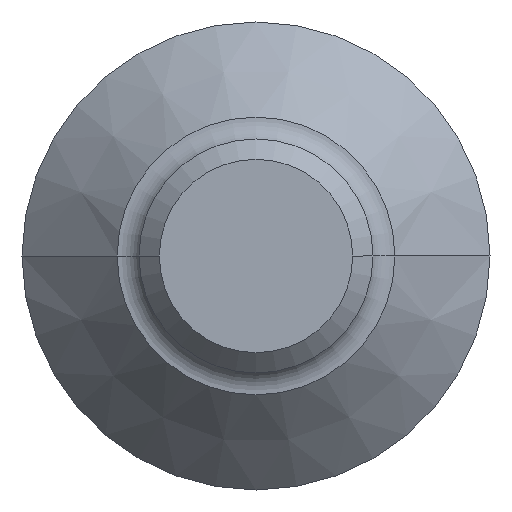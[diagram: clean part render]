
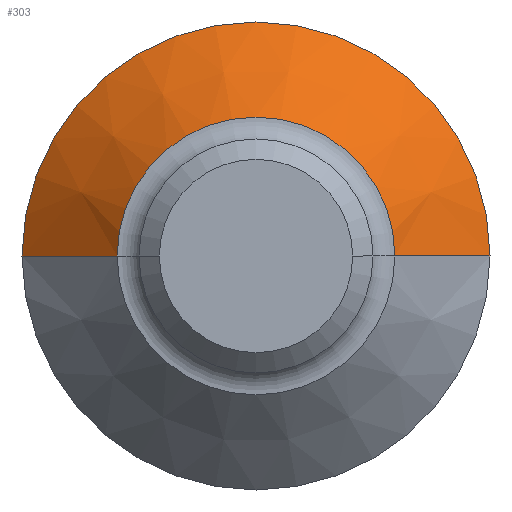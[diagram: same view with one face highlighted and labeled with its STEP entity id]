
A CAD part, left-side view. The second image highlights one B-rep face of the part: STEP entity #303.
In plain terms, the highlighted conical face has half-angle 45 degrees and reference radius 11.303 mm.
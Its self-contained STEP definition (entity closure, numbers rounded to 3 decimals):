
#8 = CARTESIAN_POINT ( 'NONE',  ( 2.997, -11.303, 0. ) ) ;
#15 = ORIENTED_EDGE ( 'NONE', *, *, #128, .T. ) ;
#20 = VERTEX_POINT ( 'NONE', #346 ) ;
#23 = EDGE_CURVE ( 'NONE', #20, #264, #166, .T. ) ;
#50 = CARTESIAN_POINT ( 'NONE',  ( 2.997, 11.303, 0. ) ) ;
#58 = DIRECTION ( 'NONE',  ( 0.707, 0.707, 0. ) ) ;
#62 = ORIENTED_EDGE ( 'NONE', *, *, #180, .F. ) ;
#83 = CARTESIAN_POINT ( 'NONE',  ( 10.744, 0., 0. ) ) ;
#111 = DIRECTION ( 'NONE',  ( 0., 1., 0. ) ) ;
#128 = EDGE_CURVE ( 'NONE', #264, #151, #463, .T. ) ;
#140 = EDGE_LOOP ( 'NONE', ( #188, #15, #198, #62 ) ) ;
#151 = VERTEX_POINT ( 'NONE', #497 ) ;
#166 = CIRCLE ( 'NONE', #468, 11.303 ) ;
#177 = FACE_OUTER_BOUND ( 'NONE', #140, .T. ) ;
#180 = EDGE_CURVE ( 'NONE', #20, #238, #476, .T. ) ;
#188 = ORIENTED_EDGE ( 'NONE', *, *, #23, .T. ) ;
#198 = ORIENTED_EDGE ( 'NONE', *, *, #392, .F. ) ;
#238 = VERTEX_POINT ( 'NONE', #376 ) ;
#240 = DIRECTION ( 'NONE',  ( 0., 1., 0. ) ) ;
#250 = CONICAL_SURFACE ( 'NONE', #465, 11.303, 0.785 ) ;
#254 = DIRECTION ( 'NONE',  ( 1., 0., 0. ) ) ;
#263 = AXIS2_PLACEMENT_3D ( 'NONE', #83, #391, #111 ) ;
#264 = VERTEX_POINT ( 'NONE', #8 ) ;
#266 = CARTESIAN_POINT ( 'NONE',  ( 2.997, 0., 0. ) ) ;
#303 = ADVANCED_FACE ( 'NONE', ( #177 ), #250, .T. ) ;
#331 = CARTESIAN_POINT ( 'NONE',  ( 2.997, 0., 0. ) ) ;
#346 = CARTESIAN_POINT ( 'NONE',  ( 2.997, 11.303, 0. ) ) ;
#369 = DIRECTION ( 'NONE',  ( 0., 1., 0. ) ) ;
#374 = CIRCLE ( 'NONE', #263, 19.05 ) ;
#376 = CARTESIAN_POINT ( 'NONE',  ( 10.744, 19.05, 0. ) ) ;
#391 = DIRECTION ( 'NONE',  ( 1., 0., 0. ) ) ;
#392 = EDGE_CURVE ( 'NONE', #238, #151, #374, .T. ) ;
#420 = DIRECTION ( 'NONE',  ( 1., 0., 0. ) ) ;
#457 = CARTESIAN_POINT ( 'NONE',  ( 2.997, -11.303, 0. ) ) ;
#463 = LINE ( 'NONE', #457, #517 ) ;
#465 = AXIS2_PLACEMENT_3D ( 'NONE', #331, #254, #369 ) ;
#468 = AXIS2_PLACEMENT_3D ( 'NONE', #266, #420, #240 ) ;
#475 = DIRECTION ( 'NONE',  ( 0.707, -0.707, 0. ) ) ;
#476 = LINE ( 'NONE', #50, #539 ) ;
#497 = CARTESIAN_POINT ( 'NONE',  ( 10.744, -19.05, 0. ) ) ;
#517 = VECTOR ( 'NONE', #475, 1000. ) ;
#539 = VECTOR ( 'NONE', #58, 1000. ) ;
